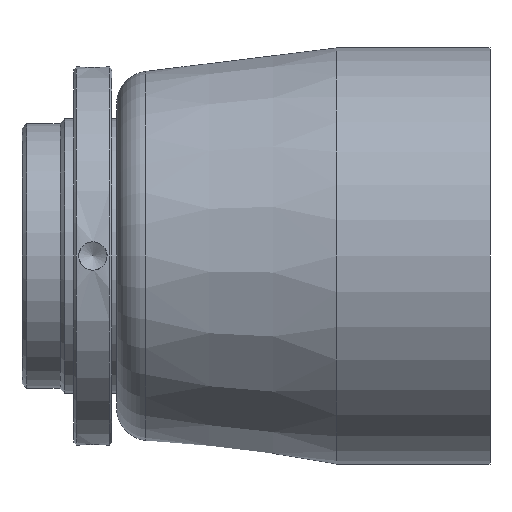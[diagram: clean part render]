
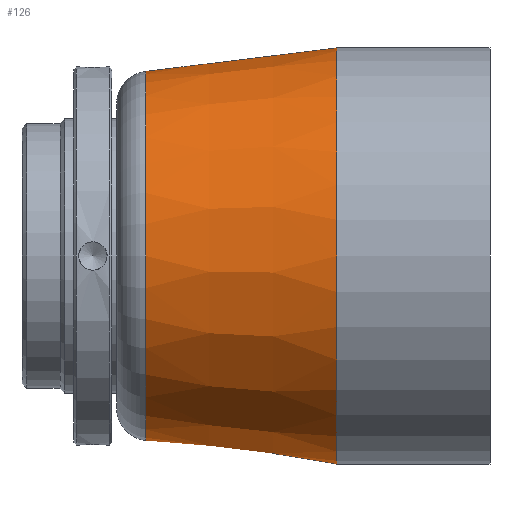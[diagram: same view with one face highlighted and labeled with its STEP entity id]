
A CAD part, left-side view. The second image highlights one B-rep face of the part: STEP entity #126.
In plain terms, the highlighted conical face has half-angle 7 degrees and reference radius 44 mm.
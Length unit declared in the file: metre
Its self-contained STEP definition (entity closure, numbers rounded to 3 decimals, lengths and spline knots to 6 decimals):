
#126=ADVANCED_FACE('',(#299,#300),#301,.T.);
#299=FACE_BOUND('',#579,.T.);
#300=FACE_OUTER_BOUND('',#580,.T.);
#301=CONICAL_SURFACE('',#581,0.044,0.122);
#579=EDGE_LOOP('',(#841));
#580=EDGE_LOOP('',(#842));
#581=AXIS2_PLACEMENT_3D('',#843,#844,#845);
#841=ORIENTED_EDGE('',*,*,#1319,.F.);
#842=ORIENTED_EDGE('',*,*,#1320,.T.);
#843=CARTESIAN_POINT('',(-0.026293,0.031522,0.0));
#844=DIRECTION('',(0.0,-1.0,-0.0));
#845=DIRECTION('',(0.0,0.0,-1.0));
#1319=EDGE_CURVE('',#1501,#1501,#1502,.T.);
#1320=EDGE_CURVE('',#1503,#1503,#1504,.T.);
#1501=VERTEX_POINT('',#1754);
#1502=CIRCLE('',#1755,0.039039);
#1503=VERTEX_POINT('',#1756);
#1504=CIRCLE('',#1757,0.044);
#1754=CARTESIAN_POINT('',(-0.026293,0.071925,0.039039));
#1755=AXIS2_PLACEMENT_3D('',#2294,#2295,#2296);
#1756=CARTESIAN_POINT('',(-0.026293,0.031522,0.044));
#1757=AXIS2_PLACEMENT_3D('',#2297,#2298,#2299);
#2294=CARTESIAN_POINT('',(-0.026293,0.071925,0.0));
#2295=DIRECTION('',(0.0,1.0,0.0));
#2296=DIRECTION('',(0.0,0.0,1.0));
#2297=CARTESIAN_POINT('',(-0.026293,0.031522,0.0));
#2298=DIRECTION('',(0.0,1.0,0.0));
#2299=DIRECTION('',(0.0,0.0,1.0));
